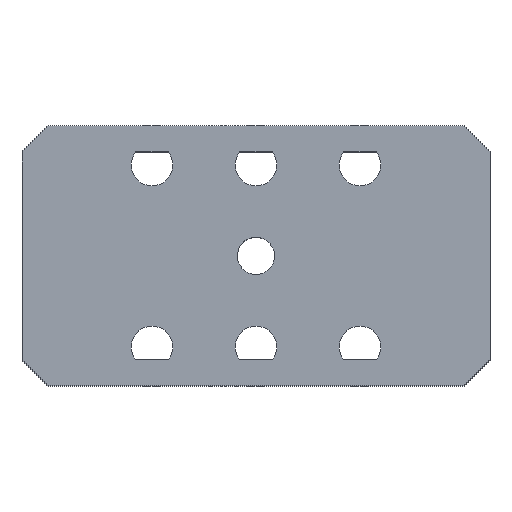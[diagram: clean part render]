
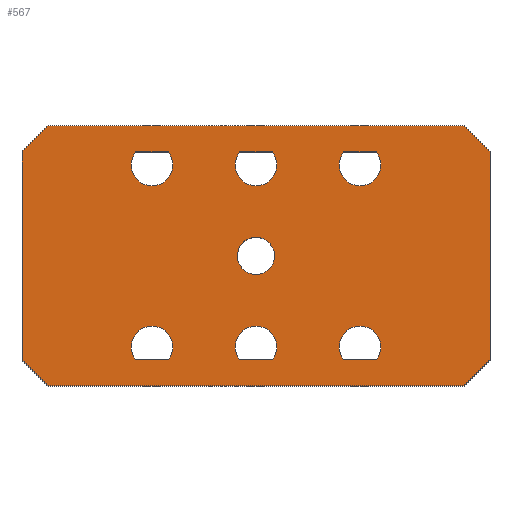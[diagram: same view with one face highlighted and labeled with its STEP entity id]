
A CAD part, top view. The second image highlights one B-rep face of the part: STEP entity #567.
In plain terms, the highlighted planar face has unit normal (0, 0, 1).
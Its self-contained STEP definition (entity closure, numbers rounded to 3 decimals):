
#156=AXIS2_PLACEMENT_3D('Circle Axis2P3D',#154,#155,$) ;
#382=AXIS2_PLACEMENT_3D('Plane Axis2P3D',#379,#380,#381) ;
#452=AXIS2_PLACEMENT_3D('Circle Axis2P3D',#450,#451,$) ;
#461=AXIS2_PLACEMENT_3D('Circle Axis2P3D',#459,#460,$) ;
#479=AXIS2_PLACEMENT_3D('Circle Axis2P3D',#477,#478,$) ;
#497=AXIS2_PLACEMENT_3D('Circle Axis2P3D',#495,#496,$) ;
#515=AXIS2_PLACEMENT_3D('Circle Axis2P3D',#513,#514,$) ;
#533=AXIS2_PLACEMENT_3D('Circle Axis2P3D',#531,#532,$) ;
#551=AXIS2_PLACEMENT_3D('Circle Axis2P3D',#549,#550,$) ;
#151=CARTESIAN_POINT('Vertex',(-6.308,3.446,10.)) ;
#154=CARTESIAN_POINT('Axis2P3D Location',(0.,0.,10.)) ;
#158=CARTESIAN_POINT('Vertex',(6.308,-3.446,10.)) ;
#379=CARTESIAN_POINT('Axis2P3D Location',(0.,0.,10.)) ;
#384=CARTESIAN_POINT('Line Origine',(-90.,0.,10.)) ;
#388=CARTESIAN_POINT('Vertex',(-90.,40.,10.)) ;
#390=CARTESIAN_POINT('Vertex',(-90.,-40.,10.)) ;
#393=CARTESIAN_POINT('Line Origine',(-85.,-45.,10.)) ;
#397=CARTESIAN_POINT('Vertex',(-80.,-50.,10.)) ;
#400=CARTESIAN_POINT('Line Origine',(0.,-50.,10.)) ;
#404=CARTESIAN_POINT('Vertex',(80.,-50.,10.)) ;
#407=CARTESIAN_POINT('Line Origine',(85.,-45.,10.)) ;
#411=CARTESIAN_POINT('Vertex',(90.,-40.,10.)) ;
#414=CARTESIAN_POINT('Line Origine',(90.,0.,10.)) ;
#418=CARTESIAN_POINT('Vertex',(90.,40.,10.)) ;
#421=CARTESIAN_POINT('Line Origine',(85.,45.,10.)) ;
#425=CARTESIAN_POINT('Vertex',(80.,50.,10.)) ;
#428=CARTESIAN_POINT('Line Origine',(0.,50.,10.)) ;
#432=CARTESIAN_POINT('Vertex',(-80.,50.,10.)) ;
#435=CARTESIAN_POINT('Line Origine',(-85.,45.,10.)) ;
#450=CARTESIAN_POINT('Axis2P3D Location',(0.,0.,10.)) ;
#459=CARTESIAN_POINT('Axis2P3D Location',(-40.,35.,10.)) ;
#463=CARTESIAN_POINT('Vertex',(-46.245,40.,10.)) ;
#465=CARTESIAN_POINT('Vertex',(-33.755,40.,10.)) ;
#468=CARTESIAN_POINT('Line Origine',(-40.,40.,10.)) ;
#477=CARTESIAN_POINT('Axis2P3D Location',(-40.,-35.,10.)) ;
#481=CARTESIAN_POINT('Vertex',(-33.755,-40.,10.)) ;
#483=CARTESIAN_POINT('Vertex',(-46.245,-40.,10.)) ;
#486=CARTESIAN_POINT('Line Origine',(-40.,-40.,10.)) ;
#495=CARTESIAN_POINT('Axis2P3D Location',(0.,35.,10.)) ;
#499=CARTESIAN_POINT('Vertex',(-6.245,40.,10.)) ;
#501=CARTESIAN_POINT('Vertex',(6.245,40.,10.)) ;
#504=CARTESIAN_POINT('Line Origine',(0.,40.,10.)) ;
#513=CARTESIAN_POINT('Axis2P3D Location',(0.,-35.,10.)) ;
#517=CARTESIAN_POINT('Vertex',(6.245,-40.,10.)) ;
#519=CARTESIAN_POINT('Vertex',(-6.245,-40.,10.)) ;
#522=CARTESIAN_POINT('Line Origine',(0.,-40.,10.)) ;
#531=CARTESIAN_POINT('Axis2P3D Location',(40.,35.,10.)) ;
#535=CARTESIAN_POINT('Vertex',(33.755,40.,10.)) ;
#537=CARTESIAN_POINT('Vertex',(46.245,40.,10.)) ;
#540=CARTESIAN_POINT('Line Origine',(40.,40.,10.)) ;
#549=CARTESIAN_POINT('Axis2P3D Location',(40.,-35.,10.)) ;
#553=CARTESIAN_POINT('Vertex',(46.245,-40.,10.)) ;
#555=CARTESIAN_POINT('Vertex',(33.755,-40.,10.)) ;
#558=CARTESIAN_POINT('Line Origine',(40.,-40.,10.)) ;
#155=DIRECTION('Axis2P3D Direction',(0.,-0.,-1.)) ;
#380=DIRECTION('Axis2P3D Direction',(0.,0.,1.)) ;
#381=DIRECTION('Axis2P3D XDirection',(1.,0.,0.)) ;
#385=DIRECTION('Vector Direction',(0.,1.,0.)) ;
#394=DIRECTION('Vector Direction',(0.707,-0.707,0.)) ;
#401=DIRECTION('Vector Direction',(-1.,0.,0.)) ;
#408=DIRECTION('Vector Direction',(-0.707,-0.707,0.)) ;
#415=DIRECTION('Vector Direction',(0.,-1.,0.)) ;
#422=DIRECTION('Vector Direction',(0.707,-0.707,0.)) ;
#429=DIRECTION('Vector Direction',(1.,0.,0.)) ;
#436=DIRECTION('Vector Direction',(0.707,0.707,0.)) ;
#451=DIRECTION('Axis2P3D Direction',(0.,0.,1.)) ;
#460=DIRECTION('Axis2P3D Direction',(0.,0.,1.)) ;
#469=DIRECTION('Vector Direction',(1.,0.,0.)) ;
#478=DIRECTION('Axis2P3D Direction',(0.,0.,1.)) ;
#487=DIRECTION('Vector Direction',(1.,0.,0.)) ;
#496=DIRECTION('Axis2P3D Direction',(0.,0.,1.)) ;
#505=DIRECTION('Vector Direction',(1.,0.,0.)) ;
#514=DIRECTION('Axis2P3D Direction',(0.,0.,1.)) ;
#523=DIRECTION('Vector Direction',(1.,0.,0.)) ;
#532=DIRECTION('Axis2P3D Direction',(0.,0.,1.)) ;
#541=DIRECTION('Vector Direction',(1.,0.,0.)) ;
#550=DIRECTION('Axis2P3D Direction',(0.,0.,1.)) ;
#559=DIRECTION('Vector Direction',(1.,0.,0.)) ;
#386=VECTOR('Line Direction',#385,1.) ;
#395=VECTOR('Line Direction',#394,1.) ;
#402=VECTOR('Line Direction',#401,1.) ;
#409=VECTOR('Line Direction',#408,1.) ;
#416=VECTOR('Line Direction',#415,1.) ;
#423=VECTOR('Line Direction',#422,1.) ;
#430=VECTOR('Line Direction',#429,1.) ;
#437=VECTOR('Line Direction',#436,1.) ;
#470=VECTOR('Line Direction',#469,1.) ;
#488=VECTOR('Line Direction',#487,1.) ;
#506=VECTOR('Line Direction',#505,1.) ;
#524=VECTOR('Line Direction',#523,1.) ;
#542=VECTOR('Line Direction',#541,1.) ;
#560=VECTOR('Line Direction',#559,1.) ;
#441=ORIENTED_EDGE('',*,*,#392,.T.) ;
#442=ORIENTED_EDGE('',*,*,#399,.F.) ;
#443=ORIENTED_EDGE('',*,*,#406,.T.) ;
#444=ORIENTED_EDGE('',*,*,#413,.F.) ;
#445=ORIENTED_EDGE('',*,*,#420,.T.) ;
#446=ORIENTED_EDGE('',*,*,#427,.F.) ;
#447=ORIENTED_EDGE('',*,*,#434,.T.) ;
#448=ORIENTED_EDGE('',*,*,#439,.F.) ;
#456=ORIENTED_EDGE('',*,*,#160,.F.) ;
#457=ORIENTED_EDGE('',*,*,#454,.F.) ;
#474=ORIENTED_EDGE('',*,*,#467,.F.) ;
#475=ORIENTED_EDGE('',*,*,#472,.F.) ;
#492=ORIENTED_EDGE('',*,*,#485,.F.) ;
#493=ORIENTED_EDGE('',*,*,#490,.F.) ;
#510=ORIENTED_EDGE('',*,*,#503,.F.) ;
#511=ORIENTED_EDGE('',*,*,#508,.F.) ;
#528=ORIENTED_EDGE('',*,*,#521,.F.) ;
#529=ORIENTED_EDGE('',*,*,#526,.F.) ;
#546=ORIENTED_EDGE('',*,*,#539,.F.) ;
#547=ORIENTED_EDGE('',*,*,#544,.F.) ;
#564=ORIENTED_EDGE('',*,*,#557,.F.) ;
#565=ORIENTED_EDGE('',*,*,#562,.F.) ;
#458=FACE_BOUND('',#455,.T.) ;
#476=FACE_BOUND('',#473,.T.) ;
#494=FACE_BOUND('',#491,.T.) ;
#512=FACE_BOUND('',#509,.T.) ;
#530=FACE_BOUND('',#527,.T.) ;
#548=FACE_BOUND('',#545,.T.) ;
#566=FACE_BOUND('',#563,.T.) ;
#567=ADVANCED_FACE('\X2\96F64EF651E04F554F53\X0\',(#449,#458,#476,#494,#512,#530,#548,#566),#383,.T.) ;
#157=CIRCLE('generated circle',#156,7.188) ;
#453=CIRCLE('generated circle',#452,7.188) ;
#462=CIRCLE('generated circle',#461,8.) ;
#480=CIRCLE('generated circle',#479,8.) ;
#498=CIRCLE('generated circle',#497,8.) ;
#516=CIRCLE('generated circle',#515,8.) ;
#534=CIRCLE('generated circle',#533,8.) ;
#552=CIRCLE('generated circle',#551,8.) ;
#160=EDGE_CURVE('',#152,#159,#157,.F.) ;
#392=EDGE_CURVE('',#389,#391,#387,.F.) ;
#399=EDGE_CURVE('',#398,#391,#396,.F.) ;
#406=EDGE_CURVE('',#398,#405,#403,.F.) ;
#413=EDGE_CURVE('',#412,#405,#410,.T.) ;
#420=EDGE_CURVE('',#412,#419,#417,.F.) ;
#427=EDGE_CURVE('',#426,#419,#424,.T.) ;
#434=EDGE_CURVE('',#426,#433,#431,.F.) ;
#439=EDGE_CURVE('',#389,#433,#438,.T.) ;
#454=EDGE_CURVE('',#159,#152,#453,.T.) ;
#467=EDGE_CURVE('',#464,#466,#462,.T.) ;
#472=EDGE_CURVE('',#466,#464,#471,.F.) ;
#485=EDGE_CURVE('',#482,#484,#480,.T.) ;
#490=EDGE_CURVE('',#484,#482,#489,.T.) ;
#503=EDGE_CURVE('',#500,#502,#498,.T.) ;
#508=EDGE_CURVE('',#502,#500,#507,.F.) ;
#521=EDGE_CURVE('',#518,#520,#516,.T.) ;
#526=EDGE_CURVE('',#520,#518,#525,.T.) ;
#539=EDGE_CURVE('',#536,#538,#534,.T.) ;
#544=EDGE_CURVE('',#538,#536,#543,.F.) ;
#557=EDGE_CURVE('',#554,#556,#552,.T.) ;
#562=EDGE_CURVE('',#556,#554,#561,.T.) ;
#440=EDGE_LOOP('',(#441,#442,#443,#444,#445,#446,#447,#448)) ;
#455=EDGE_LOOP('',(#456,#457)) ;
#473=EDGE_LOOP('',(#474,#475)) ;
#491=EDGE_LOOP('',(#492,#493)) ;
#509=EDGE_LOOP('',(#510,#511)) ;
#527=EDGE_LOOP('',(#528,#529)) ;
#545=EDGE_LOOP('',(#546,#547)) ;
#563=EDGE_LOOP('',(#564,#565)) ;
#449=FACE_OUTER_BOUND('',#440,.T.) ;
#387=LINE('Line',#384,#386) ;
#396=LINE('Line',#393,#395) ;
#403=LINE('Line',#400,#402) ;
#410=LINE('Line',#407,#409) ;
#417=LINE('Line',#414,#416) ;
#424=LINE('Line',#421,#423) ;
#431=LINE('Line',#428,#430) ;
#438=LINE('Line',#435,#437) ;
#471=LINE('Line',#468,#470) ;
#489=LINE('Line',#486,#488) ;
#507=LINE('Line',#504,#506) ;
#525=LINE('Line',#522,#524) ;
#543=LINE('Line',#540,#542) ;
#561=LINE('Line',#558,#560) ;
#383=PLANE('Plane',#382) ;
#152=VERTEX_POINT('',#151) ;
#159=VERTEX_POINT('',#158) ;
#389=VERTEX_POINT('',#388) ;
#391=VERTEX_POINT('',#390) ;
#398=VERTEX_POINT('',#397) ;
#405=VERTEX_POINT('',#404) ;
#412=VERTEX_POINT('',#411) ;
#419=VERTEX_POINT('',#418) ;
#426=VERTEX_POINT('',#425) ;
#433=VERTEX_POINT('',#432) ;
#464=VERTEX_POINT('',#463) ;
#466=VERTEX_POINT('',#465) ;
#482=VERTEX_POINT('',#481) ;
#484=VERTEX_POINT('',#483) ;
#500=VERTEX_POINT('',#499) ;
#502=VERTEX_POINT('',#501) ;
#518=VERTEX_POINT('',#517) ;
#520=VERTEX_POINT('',#519) ;
#536=VERTEX_POINT('',#535) ;
#538=VERTEX_POINT('',#537) ;
#554=VERTEX_POINT('',#553) ;
#556=VERTEX_POINT('',#555) ;
